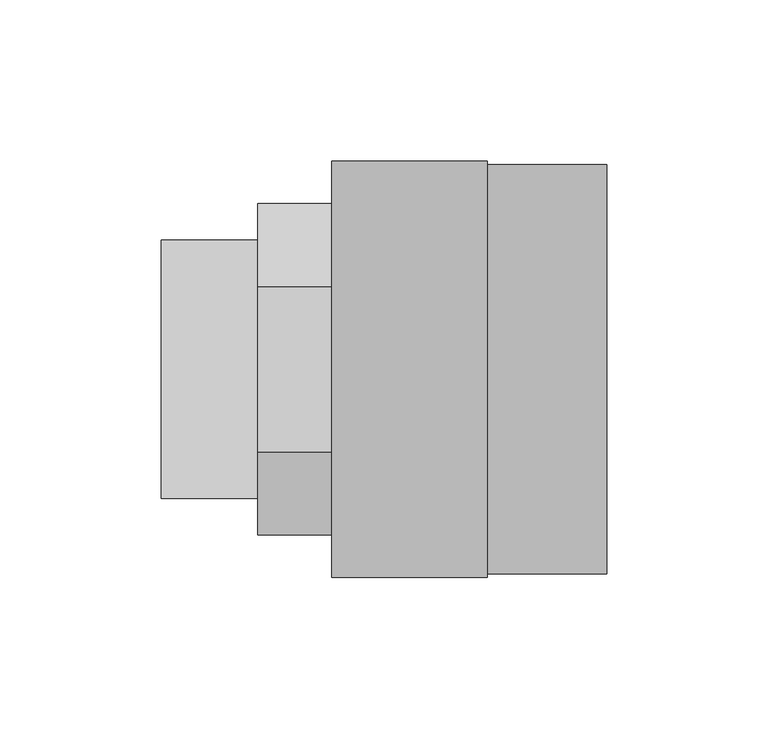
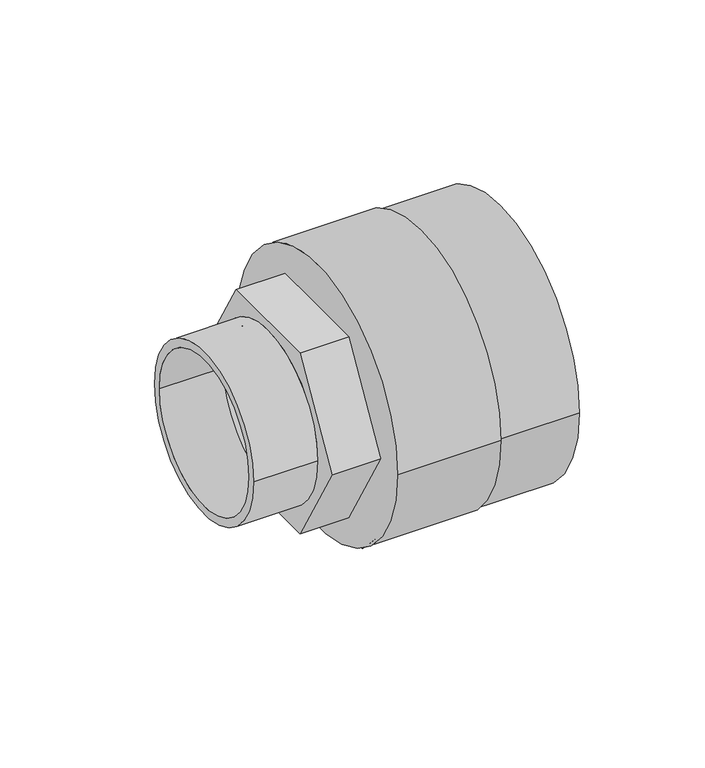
"""IFC4 building model written with IfcOpenShell, lengths in millimetres: pipe fitting geometry, NIRON RED termofusion roscado enlace rosca macho hexagonal : Estándar."""

from ifc_helpers import new_model, si_unit, point, frame, origin, origin_2d, place, context, project, spatial, polyline, circle_curve, trimmed, segment, composite_curve, outline, extrude, source, transform, mapped, element, save
from ifc_brep_helpers import plane_surface, cylinder_surface, revolved_surface, advanced_brep


def pipe_fitting_153bbb99(model_context):
    return source(origin(), model_context, "Body", "SolidModel", [
        extrude(outline(composite_curve([segment(trimmed(circle_curve(origin_2d(), 40.0), [point((-40.0, 0.0))], [point((40.0, 0.0))], False, "CARTESIAN"), True, "CONTINUOUS"), segment(trimmed(circle_curve(origin_2d(), 40.0), [point((40.0, 0.0))], [point((-40.0, 0.0))], False, "CARTESIAN"), True, "CONTINUOUS")], self_intersect=False), holes=[composite_curve([segment(trimmed(circle_curve(origin_2d(), 36.0), [point((-36.0, 0.0))], [point((36.0, 0.0))], True, "CARTESIAN"), True, "CONTINUOUS"), segment(trimmed(circle_curve(origin_2d(), 36.0), [point((36.0, 0.0))], [point((-36.0, 0.0))], True, "CARTESIAN"), True, "CONTINUOUS")], self_intersect=False)]), frame((-29.8, 0.0, 0.0), z_axis=(1.0, 0.0, 0.0), x_axis=(0.0, 1.0, 0.0)), (0.0, 0.0, 1.0), 29.8),
        advanced_brep(
        [(71.2, 64.5, 0.0), (71.2, -64.5, 0.0), (23.0, 64.5, 0.0), (23.0, -64.5, 0.0), (23.0, -40.0, 0.0), (23.0, 40.0, 0.0), (23.7, 40.0, 0.0), (23.7, -40.0, 0.0)],
        [
            (0, 1, circle_curve(frame((71.2, 0.0, 0.0), z_axis=(1.0, 0.0, 0.0), x_axis=(0.0, -1.0, 0.0)), 64.5)),
            (1, 0, circle_curve(frame((71.2, 0.0, 0.0), z_axis=(1.0, 0.0, 0.0), x_axis=(0.0, -1.0, 0.0)), 64.5)),
            (2, 3, circle_curve(frame((23.0, 0.0, 0.0), z_axis=(-1.0, 0.0, 0.0), x_axis=(0.0, -1.0, 0.0)), 64.5)),
            (3, 2, circle_curve(frame((23.0, 0.0, 0.0), z_axis=(-1.0, 0.0, 0.0), x_axis=(0.0, -1.0, 0.0)), 64.5)),
            (4, 5, circle_curve(frame((23.0, 0.0, 0.0), z_axis=(1.0, 0.0, 0.0), x_axis=(0.0, -1.0, 0.0)), 40.0)),
            (5, 4, circle_curve(frame((23.0, 0.0, 0.0), z_axis=(1.0, 0.0, 0.0), x_axis=(0.0, -1.0, 0.0)), 40.0)),
            (1, 3),
            (2, 0),
            (6, 7, circle_curve(frame((23.7, 0.0, 0.0), z_axis=(-1.0, 0.0, 0.0), x_axis=(0.0, -1.0, 0.0)), 40.0)),
            (7, 6, circle_curve(frame((23.7, 0.0, 0.0), z_axis=(-1.0, 0.0, 0.0), x_axis=(0.0, -1.0, 0.0)), 40.0)),
            (6, 5),
            (4, 7),
        ],
        [
            plane_surface(frame((71.2, -64.5, 0.0), z_axis=(1.0, 0.0, 0.0), x_axis=(0.0, 0.0, -1.0))),
            plane_surface(frame((23.0, -64.5, 0.0), z_axis=(-1.0, 0.0, 0.0), x_axis=(0.0, 0.0, 1.0))),
            cylinder_surface(frame((71.2, 0.0, 0.0), z_axis=(-1.0, 0.0, 0.0), x_axis=(0.0, -1.0, 0.0)), 64.5),
            plane_surface(frame((23.7, -40.0, 0.0), z_axis=(-1.0, 0.0, 0.0), x_axis=(0.0, 0.0, -1.0))),
            revolved_surface(polyline([(23.0, -40.0, 0.0), (23.7, -40.0, 0.0)]), (23.7, 0.0, 0.0), (-1.0, 0.0, 0.0)),
        ],
        [
            (0, [[1, 2]]),
            (1, [[3, 4], [5, 6]]),
            (2, [[-2, 7, -3, 8]]),
            (2, [[-1, -8, -4, -7]]),
            (3, [[9, 10]]),
            (4, [[-9, 11, -5, 12]]),
            (4, [[-10, -12, -6, -11]]),
        ],
    ),
        advanced_brep(
        [(23.0, 63.5, 0.0), (23.0, -63.5, 0.0), (23.0, -40.0, 0.0), (23.0, 40.0, 0.0), (108.2, 63.5, 0.0), (108.2, -63.5, 0.0), (23.7, 40.0, 0.0), (23.7, -40.0, 0.0)],
        [
            (0, 1, circle_curve(frame((23.0, 0.0, 0.0), z_axis=(-1.0, 0.0, 0.0), x_axis=(0.0, -1.0, 0.0)), 63.5)),
            (1, 0, circle_curve(frame((23.0, 0.0, 0.0), z_axis=(-1.0, 0.0, 0.0), x_axis=(0.0, -1.0, 0.0)), 63.5)),
            (2, 3, circle_curve(frame((23.0, 0.0, 0.0), z_axis=(1.0, 0.0, 0.0), x_axis=(0.0, -1.0, 0.0)), 40.0)),
            (3, 2, circle_curve(frame((23.0, 0.0, 0.0), z_axis=(1.0, 0.0, 0.0), x_axis=(0.0, -1.0, 0.0)), 40.0)),
            (4, 5, circle_curve(frame((108.2, 0.0, 0.0), z_axis=(1.0, 0.0, 0.0), x_axis=(0.0, -1.0, 0.0)), 63.5)),
            (5, 4, circle_curve(frame((108.2, 0.0, 0.0), z_axis=(1.0, 0.0, 0.0), x_axis=(0.0, -1.0, 0.0)), 63.5)),
            (0, 4),
            (5, 1),
            (6, 7, circle_curve(frame((23.7, 0.0, 0.0), z_axis=(-1.0, 0.0, 0.0), x_axis=(0.0, -1.0, 0.0)), 40.0)),
            (7, 6, circle_curve(frame((23.7, 0.0, 0.0), z_axis=(-1.0, 0.0, 0.0), x_axis=(0.0, -1.0, 0.0)), 40.0)),
            (6, 3),
            (2, 7),
        ],
        [
            plane_surface(frame((23.0, -63.5, 0.0), z_axis=(-1.0, 0.0, 0.0), x_axis=(0.0, 0.0, 1.0))),
            plane_surface(frame((108.2, -63.5, 0.0), z_axis=(1.0, 0.0, 0.0), x_axis=(0.0, 0.0, -1.0))),
            cylinder_surface(frame((108.2, 0.0, 0.0), z_axis=(-1.0, 0.0, 0.0), x_axis=(0.0, -1.0, 0.0)), 63.5),
            plane_surface(frame((23.7, -40.0, 0.0), z_axis=(-1.0, 0.0, 0.0), x_axis=(0.0, 0.0, -1.0))),
            revolved_surface(polyline([(23.0, -40.0, 0.0), (23.7, -40.0, 0.0)]), (23.7, 0.0, 0.0), (-1.0, 0.0, 0.0)),
        ],
        [
            (0, [[1, 2], [3, 4]]),
            (1, [[5, 6]]),
            (2, [[-1, 7, -6, 8]]),
            (2, [[-2, -8, -5, -7]]),
            (3, [[9, 10]]),
            (4, [[-9, 11, -3, 12]]),
            (4, [[-10, -12, -4, -11]]),
        ],
    ),
        advanced_brep(
        [(45.0, -25.692087, -44.5), (45.0, 25.692087, -44.5), (45.0, 51.384174, 0.0), (45.0, 25.692087, 44.5), (45.0, -25.692087, 44.5), (45.0, -51.384174, 0.0), (0.0, -25.692087, -44.5), (0.0, -51.384174, 0.0), (0.0, -25.692087, 44.5), (0.0, 25.692087, 44.5), (0.0, 51.384174, 0.0), (0.0, 25.692087, -44.5), (0.0, -40.0, 0.0), (0.0, 40.0, 0.0), (23.7, 40.0, 0.0), (23.7, -40.0, 0.0)],
        [
            (0, 1),
            (1, 2),
            (2, 3),
            (3, 4),
            (4, 5),
            (5, 0),
            (6, 7),
            (7, 8),
            (8, 9),
            (9, 10),
            (10, 11),
            (11, 6),
            (12, 13, circle_curve(frame((0.0, 0.0, 0.0), z_axis=(1.0, 0.0, 0.0), x_axis=(0.0, -1.0, 0.0)), 40.0)),
            (13, 12, circle_curve(frame((0.0, 0.0, 0.0), z_axis=(1.0, 0.0, 0.0), x_axis=(0.0, -1.0, 0.0)), 40.0)),
            (0, 6),
            (11, 1),
            (10, 2),
            (9, 3),
            (8, 4),
            (7, 5),
            (14, 15, circle_curve(frame((23.7, 0.0, 0.0), z_axis=(-1.0, 0.0, 0.0), x_axis=(0.0, -1.0, 0.0)), 40.0)),
            (15, 14, circle_curve(frame((23.7, 0.0, 0.0), z_axis=(-1.0, 0.0, 0.0), x_axis=(0.0, -1.0, 0.0)), 40.0)),
            (14, 13),
            (12, 15),
        ],
        [
            plane_surface(frame((45.0, 0.0, 0.0), z_axis=(1.0, 0.0, 0.0), x_axis=(0.0, 0.0, 1.0))),
            plane_surface(frame((0.0, 0.0, 0.0), z_axis=(-1.0, 0.0, 0.0), x_axis=(0.0, 0.0, 1.0))),
            plane_surface(frame((45.0, -25.692087, -44.5), z_axis=(0.0, 0.0, -1.0), x_axis=(-1.0, 0.0, 0.0))),
            plane_surface(frame((45.0, 25.692087, -44.5), z_axis=(0.0, 0.8660254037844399, -0.4999999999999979), x_axis=(-1.0, 0.0, 0.0))),
            plane_surface(frame((45.0, 51.384174, 0.0), z_axis=(0.0, 0.8660254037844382, 0.500000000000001), x_axis=(-1.0, 0.0, 0.0))),
            plane_surface(frame((45.0, 25.692087, 44.5), z_axis=(0.0, 0.0, 1.0), x_axis=(-1.0, 0.0, 0.0))),
            plane_surface(frame((45.0, -25.692087, 44.5), z_axis=(0.0, -0.8660254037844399, 0.49999999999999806), x_axis=(-1.0, 0.0, 0.0))),
            plane_surface(frame((45.0, -51.384174, 0.0), z_axis=(0.0, -0.8660254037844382, -0.500000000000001), x_axis=(-1.0, 0.0, 0.0))),
            plane_surface(frame((23.7, -40.0, 0.0), z_axis=(-1.0, 0.0, 0.0), x_axis=(0.0, 0.0, -1.0))),
            revolved_surface(polyline([(0.0, -40.0, 0.0), (23.7, -40.0, 0.0)]), (23.7, 0.0, 0.0), (-1.0, 0.0, 0.0)),
        ],
        [
            (0, [[1, 2, 3, 4, 5, 6]]),
            (1, [[7, 8, 9, 10, 11, 12], [13, 14]]),
            (2, [[-1, 15, -12, 16]]),
            (3, [[-2, -16, -11, 17]]),
            (4, [[-3, -17, -10, 18]]),
            (5, [[-4, -18, -9, 19]]),
            (6, [[-5, -19, -8, 20]]),
            (7, [[-6, -20, -7, -15]]),
            (8, [[21, 22]]),
            (9, [[-21, 23, -13, 24]]),
            (9, [[-22, -24, -14, -23]]),
        ],
    ),
    ])


if __name__ == "__main__":
    model = new_model("IFC4")
    model_context = context("Model", 3, world=origin())
    ifc_project = project(units=[si_unit("LENGTHUNIT", "METRE", prefix="MILLI")], contexts=[model_context])
    site = spatial("IfcSite", under=ifc_project)
    building = spatial("IfcBuilding", under=site)
    placement = place(None, origin())
    pipe_fitting_shape = pipe_fitting_153bbb99(model_context)
    element("IfcPipeFitting", 1, ObjectType="NIRON RED termofusion roscado enlace rosca macho hexagonal : Estándar", at=placement, inside=building, context=model_context, shape_type="MappedRepresentation", body=[
        mapped(pipe_fitting_shape, transform((0.0, 0.0, 0.0), x_axis=(1.0, 0.0, 0.0), y_axis=(0.0, 1.0, 0.0), z_axis=(0.0, 0.0, 1.0))),
    ])
    save(model, "model.ifc")
